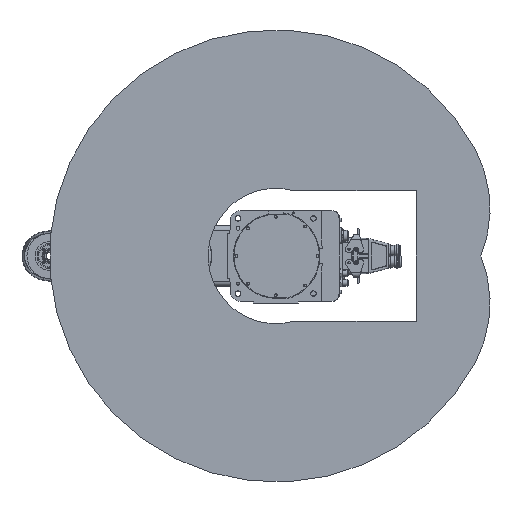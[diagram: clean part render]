
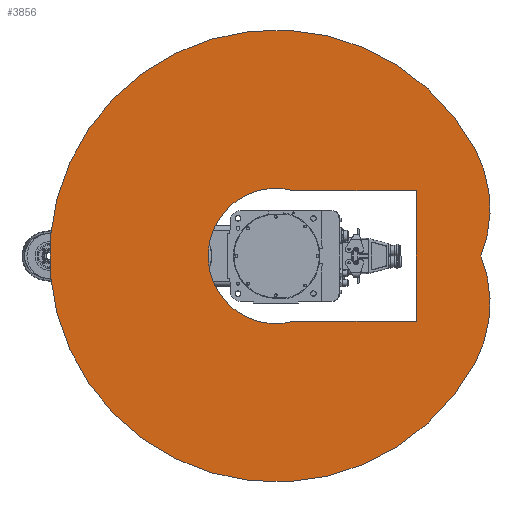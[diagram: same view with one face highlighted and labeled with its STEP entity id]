
A CAD part, front view. The second image highlights one B-rep face of the part: STEP entity #3856.
In plain terms, the highlighted planar face has unit normal (0, -1, 0).
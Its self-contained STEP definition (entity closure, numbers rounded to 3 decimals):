
#3856 = ADVANCED_FACE( '', ( #10627, #10628 ), #10629, .F. );
#10627 = FACE_OUTER_BOUND( '', #21614, .T. );
#10628 = FACE_BOUND( '', #21615, .T. );
#10629 = PLANE( '', #21616 );
#21614 = EDGE_LOOP( '', ( #34257, #34258, #34259 ) );
#21615 = EDGE_LOOP( '', ( #34260, #34261, #34262, #34263 ) );
#21616 = AXIS2_PLACEMENT_3D( '', #34264, #34265, #34266 );
#34257 = ORIENTED_EDGE( '', *, *, #59578, .F. );
#34258 = ORIENTED_EDGE( '', *, *, #59579, .F. );
#34259 = ORIENTED_EDGE( '', *, *, #59580, .F. );
#34260 = ORIENTED_EDGE( '', *, *, #59249, .T. );
#34261 = ORIENTED_EDGE( '', *, *, #59581, .T. );
#34262 = ORIENTED_EDGE( '', *, *, #59582, .T. );
#34263 = ORIENTED_EDGE( '', *, *, #59583, .T. );
#34264 = CARTESIAN_POINT( '', ( 46.947, 0., 88.295 ) );
#34265 = DIRECTION( '', ( 0., 1., 0. ) );
#34266 = DIRECTION( '', ( 0., 0., 1. ) );
#59249 = EDGE_CURVE( '', #69686, #69684, #69687, .T. );
#59578 = EDGE_CURVE( '', #70267, #70268, #70269, .T. );
#59579 = EDGE_CURVE( '', #70270, #70267, #70271, .T. );
#59580 = EDGE_CURVE( '', #70268, #70270, #70272, .T. );
#59581 = EDGE_CURVE( '', #69684, #70273, #70274, .T. );
#59582 = EDGE_CURVE( '', #70273, #70275, #70276, .T. );
#59583 = EDGE_CURVE( '', #70275, #69686, #70277, .T. );
#69684 = VERTEX_POINT( '', #85117 );
#69686 = VERTEX_POINT( '', #85120 );
#69687 = LINE( '', #85121, #85122 );
#70267 = VERTEX_POINT( '', #86222 );
#70268 = VERTEX_POINT( '', #86223 );
#70269 = CIRCLE( '', #86224, 250. );
#70270 = VERTEX_POINT( '', #86225 );
#70271 = CIRCLE( '', #86226, 250. );
#70272 = CIRCLE( '', #86227, 450. );
#70273 = VERTEX_POINT( '', #86228 );
#70274 = LINE( '', #86229, #86230 );
#70275 = VERTEX_POINT( '', #86231 );
#70276 = LINE( '', #86232, #86233 );
#70277 = CIRCLE( '', #86234, 134.76 );
#85117 = CARTESIAN_POINT( '', ( -130., 0., 280. ) );
#85120 = CARTESIAN_POINT( '', ( -130., 0., 35.5 ) );
#85121 = CARTESIAN_POINT( '', ( -130., 0., 0. ) );
#85122 = VECTOR( '', #108767, 1000. );
#86222 = CARTESIAN_POINT( '', ( 0., 0., 408.287 ) );
#86223 = CARTESIAN_POINT( '', ( 211.262, 0., 397.326 ) );
#86224 = AXIS2_PLACEMENT_3D( '', #109168, #109169, #109170 );
#86225 = CARTESIAN_POINT( '', ( -211.262, 0., 397.326 ) );
#86226 = AXIS2_PLACEMENT_3D( '', #109171, #109172, #109173 );
#86227 = AXIS2_PLACEMENT_3D( '', #109174, #109175, #109176 );
#86228 = CARTESIAN_POINT( '', ( 130., 0., 280. ) );
#86229 = CARTESIAN_POINT( '', ( -130., 0., 280. ) );
#86230 = VECTOR( '', #109177, 1000. );
#86231 = CARTESIAN_POINT( '', ( 130., 0., 35.5 ) );
#86232 = CARTESIAN_POINT( '', ( 130., 0., 280. ) );
#86233 = VECTOR( '', #109178, 1000. );
#86234 = AXIS2_PLACEMENT_3D( '', #109179, #109180, #109181 );
#108767 = DIRECTION( '', ( 0., 0., 1. ) );
#109168 = CARTESIAN_POINT( '', ( 93.894, 0., 176.59 ) );
#109169 = DIRECTION( '', ( 0., 1., 0. ) );
#109170 = DIRECTION( '', ( 1., 0., 0. ) );
#109171 = CARTESIAN_POINT( '', ( -93.894, 0., 176.59 ) );
#109172 = DIRECTION( '', ( 0., 1., 0. ) );
#109173 = DIRECTION( '', ( 1., 0., 0. ) );
#109174 = CARTESIAN_POINT( '', ( 0., 0., 0. ) );
#109175 = DIRECTION( '', ( 0., 1., 0. ) );
#109176 = DIRECTION( '', ( 1., 0., 0. ) );
#109177 = DIRECTION( '', ( 1., 0., 0. ) );
#109178 = DIRECTION( '', ( 0., 0., -1. ) );
#109179 = CARTESIAN_POINT( '', ( 0., 0., 0. ) );
#109180 = DIRECTION( '', ( 0., 1., 0. ) );
#109181 = DIRECTION( '', ( 1., 0., 0. ) );
